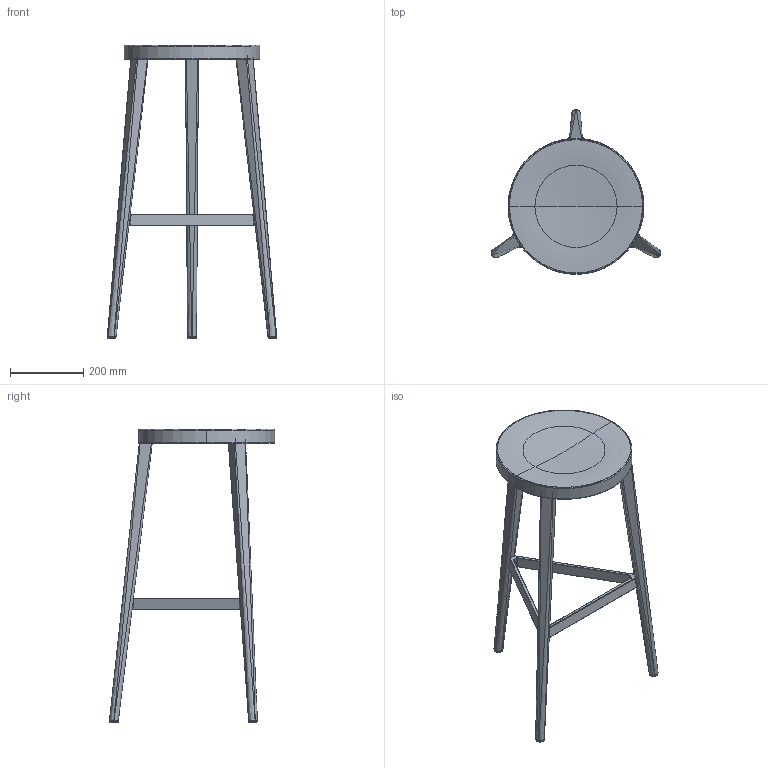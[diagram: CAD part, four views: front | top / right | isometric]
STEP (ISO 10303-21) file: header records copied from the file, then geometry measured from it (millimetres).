
FILE_DESCRIPTION (( 'STEP AP214' ), '1' );
FILE_NAME ('AU2510384_REKO_Barhocker.STEP', '2025-03-27T15:12:09', ( '' ), ( '' ), 'SwSTEP 2.0', 'SolidWorks 2024', '' );
FILE_SCHEMA (( 'AUTOMOTIVE_DESIGN' ));
Length unit declared in the file: millimetre
Products named in the file (1): AU2510384_REKO_Barhocker
Bounding box: 462 x 449.98 x 799.5 mm (x, y, z)
Volume: 3894217 mm3; surface area: 645031.2 mm2
Topology: 5 solids, 5 shells, 288 faces, 700 edges, 424 vertices
Faces by surface type: cylinder 77, plane 76, bspline 72, torus 46, cone 13, sphere 4
Entity records: 15522 total; most frequent: CARTESIAN_POINT 9430, ORIENTED_EDGE 1400, DIRECTION 1091, EDGE_CURVE 700, AXIS2_PLACEMENT_3D 451, VERTEX_POINT 424, EDGE_LOOP 298, ADVANCED_FACE 288
